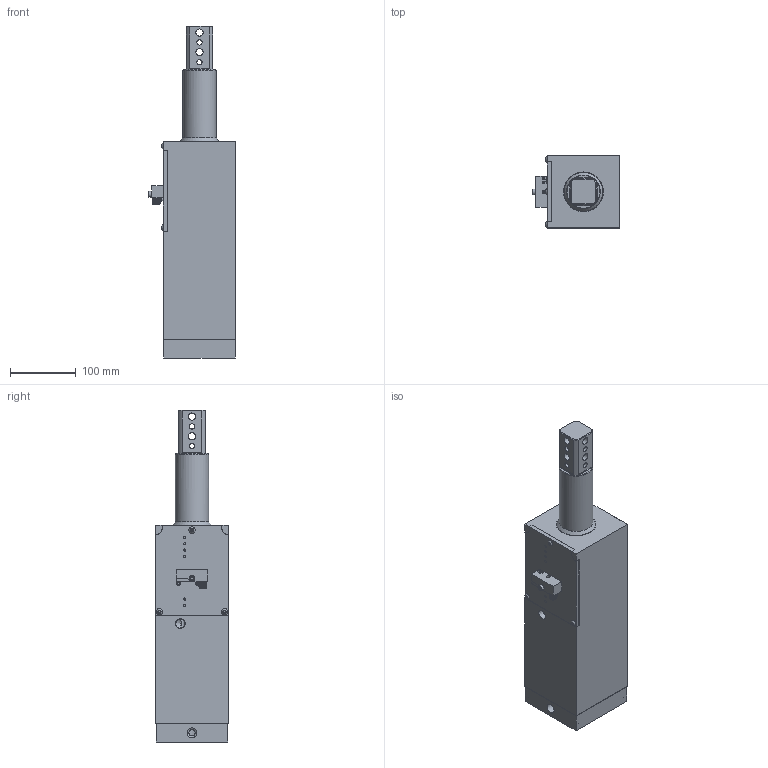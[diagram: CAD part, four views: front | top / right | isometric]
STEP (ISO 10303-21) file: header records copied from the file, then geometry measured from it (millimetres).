
FILE_DESCRIPTION(/* description */ (''),/* implementation_level */ '2;1');
FILE_NAME(/* name */ 'M:\cad\PRODUCT\LSA\LSA - 105\STEP\LSA-105\100mm Stroke\LSA-105 100mm - Extend.stp',/* time_stamp */ '2018-04-20T09:55:23-04:00',/* author */ ('Tyler'),/* organization */ (''),/* preprocessor_version */ 'ST-DEVELOPER v17',/* originating_system */ 'Autodesk Inventor 2018',/* authorisation */ '');
FILE_SCHEMA (('AUTOMOTIVE_DESIGN { 1 0 10303 214 3 1 1 }'));
Length unit declared in the file: inch
Products named in the file (1): LSA-105  75_100 Stroke - Stripped for STEP_100 Extend
Bounding box: 132.75 x 110.01 x 504.95 mm (x, y, z)
Volume: 3043788.8 mm3; surface area: 324859.4 mm2
Topology: 1 solids, 1 shells, 558 faces, 1501 edges, 995 vertices
Faces by surface type: plane 232, cylinder 220, cone 96, torus 5, sphere 3, bspline 2
Full cylindrical faces by diameter (mm): 1 x8, 1.397 x1, 1.842 x1, 2 x2, 2.464 x1, 3.175 x2, 3.251 x1, 3.264 x6, 3.961 x29, 4.14 x7, 4.928 x4, 5 x23, 5.3 x4, 5.5 x2, 6.35 x1, 6.502 x4, 8.019 x8, 8.3 x1, 8.382 x4, 8.5 x1, 9.5 x3, 9.525 x1, 10.02 x2, 10.49 x4, 10.5 x1, 10.998 x8, 12 x1, 13.894 x1, 14.287 x1, 14.808 x1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
Entity records: 24424 total; most frequent: CARTESIAN_POINT 9568, DIRECTION 3006, ORIENTED_EDGE 2978, EDGE_CURVE 1489, AXIS2_PLACEMENT_3D 1165, VERTEX_POINT 995, LINE 676, VECTOR 676
